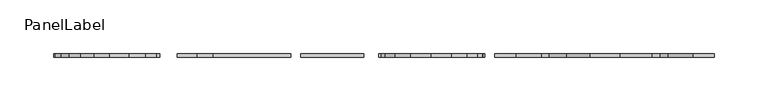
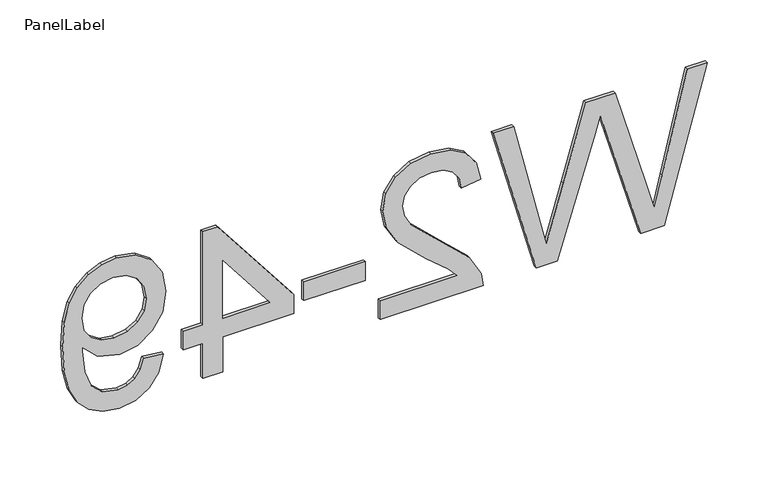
"""IFC4 building model written with IfcOpenShell, lengths in millimetres: fastener geometry, PanelLabel : Miranda."""

from ifc_helpers import new_model, si_unit, frame, origin, place, context, project, spatial, polyline, outline, extrude, source, transform, mapped, element, save


def panellabel_4da81780(model_context):
    return source(origin(), model_context, "Body", "SweptSolid", [
        extrude(outline(polyline([(1310.9113766, 268.5683654), (1460.9667612, 309.4892308), (1460.9667612, 290.1461538), (1362.3463766, 266.4069231), (1331.9030112, 259.08), (1358.8294535, 251.2401923), (1460.9667612, 221.4928846), (1460.9667612, 193.6139423), (1386.9282035, 171.9995192), (1331.9030112, 155.9169231), (1361.4671458, 148.8098077), (1460.9667612, 124.8507692), (1460.9667612, 105.5076923), (1310.9113766, 146.4651923), (1310.9113766, 166.5043269), (1426.6767612, 202.4795192), (1442.8326266, 207.4984615), (1423.3796458, 213.1401923), (1310.9113766, 245.9281731), (1310.9113766, 268.5683654)])), frame((0.0, 100.80625, 0.0), z_axis=(0.0, 1.0, 0.0), x_axis=(0.0, 0.0, 1.0)), (0.0, 0.0, 1.0), 3.175),
        extrude(outline(polyline([(1329.6682997, -2.3446154), (1310.9113766, -2.3446154), (1310.9113766, 96.1292308), (1323.8433958, 94.1143269), (1343.7543093, 82.7209615), (1365.4969535, 59.2381731), (1396.7462804, 26.8531731), (1407.5168573, 20.7809856), (1417.9943573, 18.7569231), (1427.3865569, 20.6665024), (1435.1943093, 26.3952404), (1440.4559559, 35.2012861), (1442.2098381, 46.3427885), (1440.4971698, 58.0429688), (1435.359165, 67.1329327), (1427.1988045, 72.9990505), (1416.4190689, 75.0276923), (1418.7636843, 93.7846154), (1436.9069775, 89.2373438), (1450.1595497, 79.4055288), (1458.2649583, 64.8020553), (1460.9667612, 45.9398077), (1457.9627227, 26.9401803), (1448.9506073, 12.3641827), (1435.4873862, 3.0910457), (1419.1300304, 0.0), (1401.3439247, 3.33375), (1382.9533477, 14.4157212), (1357.254165, 41.2872115), (1339.211617, 62.865), (1329.6682997, 71.3275962), (1329.6682997, -2.3446154)])), frame((0.0, 100.80625, 0.0), z_axis=(0.0, 1.0, 0.0), x_axis=(0.0, 0.0, 1.0)), (0.0, 0.0, 1.0), 3.175),
        extrude(outline(polyline([(-75.0276923, 103.98125), (-16.4123077, 103.98125), (-16.4123077, 100.80625), (-75.0276923, 100.80625), (-75.0276923, 103.98125)])), frame((0.0, 0.0, 1355.4590689), z_axis=(0.0, 0.0, 1.0), x_axis=(1.0, 0.0, 0.0)), (0.0, 0.0, 1.0), 18.7569231),
        extrude(outline(polyline([(1310.9113766, -152.4), (1346.0806073, -152.4), (1346.0806073, -84.4061538), (1364.8375304, -84.4061538), (1458.6221458, -157.0892308), (1458.6221458, -171.1569231), (1364.8375304, -171.1569231), (1364.8375304, -189.9138462), (1346.0806073, -189.9138462), (1346.0806073, -171.1569231), (1310.9113766, -171.1569231), (1310.9113766, -152.4)]), holes=[polyline([(1364.8375304, -152.4), (1422.793492, -152.4), (1364.8375304, -107.4859615), (1364.8375304, -152.4)])]), frame((0.0, 100.80625, 0.0), z_axis=(0.0, 1.0, 0.0), x_axis=(0.0, 0.0, 1.0)), (0.0, 0.0, 1.0), 3.175),
        extrude(outline(polyline([(1348.4252227, -208.6707692), (1350.7698381, -227.4276923), (1340.122903, -230.6332212), (1332.8738285, -235.8536538), (1328.7112203, -242.9607692), (1327.3236843, -251.8263462), (1330.8955593, -267.0113942), (1340.4388766, -277.3057212), (1356.7412804, -283.4420192), (1378.502242, -286.1529808), (1382.1657035, -286.0430769), (1367.9514727, -271.0412019), (1362.492915, -250.4708654), (1365.826665, -233.3670793), (1375.827915, -219.1299519), (1391.2785641, -209.5271034), (1410.9605112, -206.3261538), (1431.2927227, -209.6828005), (1447.2287804, -219.7527404), (1457.532266, -234.8782572), (1460.9667612, -253.4016346), (1459.0068093, -267.3914784), (1453.1269535, -280.1265865), (1443.6202708, -290.778101), (1430.7798381, -298.5171635), (1413.030367, -303.2292909), (1388.7965689, -304.8), (1363.1019655, -303.2338702), (1343.2414247, -298.5354808), (1328.3173982, -290.7460457), (1317.4323381, -279.9067788), (1310.7831554, -266.4847716), (1308.5667612, -250.9471154), (1311.1815569, -234.9103125), (1319.0259439, -222.1156731), (1331.6053549, -213.1676683), (1348.4252227, -208.6707692)]), holes=[polyline([(1411.4001266, -286.0430769), (1424.1123381, -284.0190144), (1433.8937804, -277.9468269), (1440.1308237, -268.5225721), (1442.2098381, -256.4423077), (1439.9705472, -243.9132692), (1433.2526747, -233.8753846), (1422.9720857, -227.2811538), (1410.0446458, -225.0830769), (1398.4543694, -227.1620913), (1389.2545016, -233.3991346), (1383.251004, -243.1897356), (1381.2498381, -255.9294231), (1383.251004, -267.9135216), (1389.2545016, -277.5621635), (1398.7932396, -283.9228486), (1411.4001266, -286.0430769)])]), frame((0.0, 100.80625, 0.0), z_axis=(0.0, 1.0, 0.0), x_axis=(0.0, 0.0, 1.0)), (0.0, 0.0, 1.0), 3.175),
    ])


if __name__ == "__main__":
    model = new_model("IFC4")
    model_context = context("Model", 3, world=origin())
    ifc_project = project(units=[si_unit("LENGTHUNIT", "METRE", prefix="MILLI")], contexts=[model_context])
    site = spatial("IfcSite", under=ifc_project)
    building = spatial("IfcBuilding", under=site)
    placement = place(None, origin())
    panellabel_shape = panellabel_4da81780(model_context)
    element("IfcFastener", 1, ObjectType="PanelLabel : Miranda", at=placement, inside=building, context=model_context, shape_type="MappedRepresentation", body=[
        mapped(panellabel_shape, transform((0.0, 0.0, 0.0), x_axis=(1.0, 0.0, 0.0), y_axis=(0.0, 1.0, 0.0), z_axis=(0.0, 0.0, 1.0))),
    ])
    save(model, "model.ifc")
